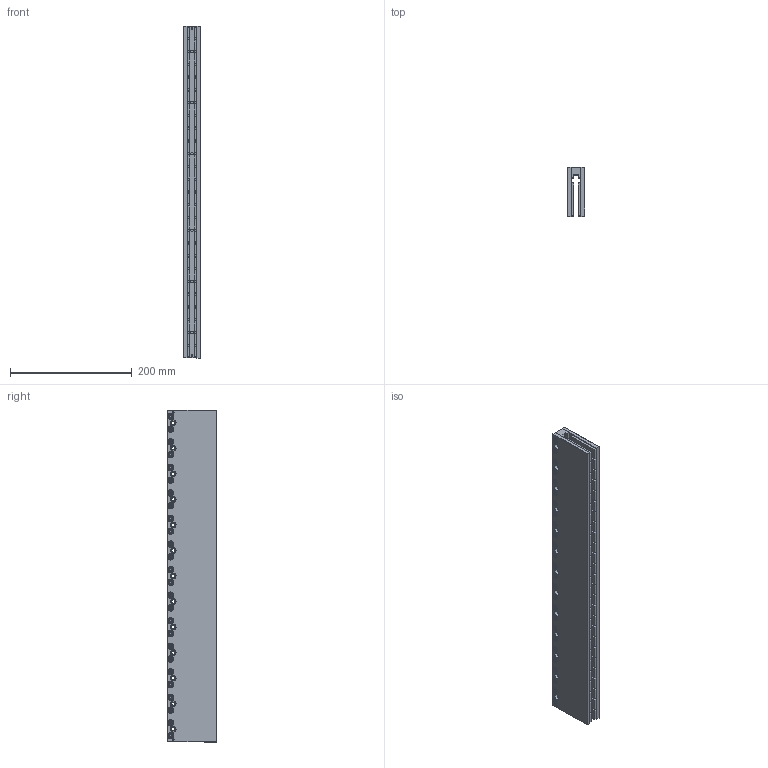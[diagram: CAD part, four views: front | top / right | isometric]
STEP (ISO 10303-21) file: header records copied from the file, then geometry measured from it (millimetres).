
FILE_DESCRIPTION (( 'STEP AP203' ), '1' );
FILE_NAME ('MY91-546 3D.STEP', '2020-10-29T03:48:17', ( '' ), ( '' ), 'SwSTEP 2.0', 'SolidWorks 2018', '' );
FILE_SCHEMA (( 'CONFIG_CONTROL_DESIGN' ));
Length unit declared in the file: millimetre
Products named in the file (4): MY91-546 assembly 3D; MY44 screw; CS91-546; MY91-546 3D
Assembly tree (54 placements, depth 2):
  MY91-546 3D
    CS91-546
    MY91-546 assembly 3D
    MY44 screw  x52
Bounding box: 28.4 x 80.2 x 545.92 mm (x, y, z)
Volume: 978334.8 mm3; surface area: 435302.7 mm2
Topology: 108 solids, 108 shells, 3872 faces, 9680 edges, 6020 vertices
Faces by surface type: cylinder 1964, plane 1128, torus 416, cone 364
Entity records: 61868 total; most frequent: DIRECTION 11559, CARTESIAN_POINT 10631, ORIENTED_EDGE 9670, EDGE_CURVE 4835, AXIS2_PLACEMENT_3D 4751, VERTEX_POINT 2858, CIRCLE 2658, EDGE_LOOP 2329
